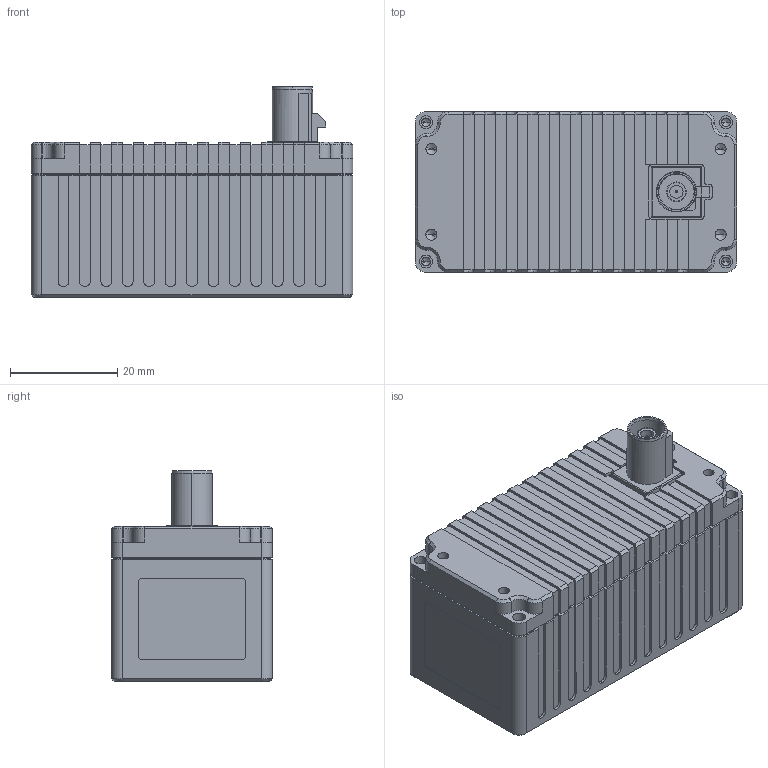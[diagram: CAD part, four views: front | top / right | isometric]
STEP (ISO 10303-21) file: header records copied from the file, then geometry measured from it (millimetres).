
FILE_DESCRIPTION (( 'STEP AP214' ), '1' );
FILE_NAME ('D35GC-蚾饜极.STEP', '2026-10-08T09:20:05', ( '' ), ( '' ), 'SwSTEP 2.0', 'SolidWorks 2025', '' );
FILE_SCHEMA (( 'AUTOMOTIVE_DESIGN' ));
Length unit declared in the file: millimetre
Products named in the file (10): D35GC-后壳; D35GC-光学模组; D35GC-壳体; D35GC-RX窗口片; D35GC-装配体; D35GC-TX窗口片; D35GC-前壳; D35GC_TR_EVT_V1-20260720; D35GC-RGB窗口片; D35GC-导光柱_V1.1
Assembly tree (9 placements, depth 3):
  D35GC-装配体
    D35GC-壳体
      D35GC-前壳
      D35GC-后壳
      D35GC-RGB窗口片
      D35GC-RX窗口片
      D35GC-TX窗口片
      D35GC-导光柱_V1.1
    D35GC-光学模组
      D35GC_TR_EVT_V1-20260720
Bounding box: 60 x 30 x 39.35 mm (x, y, z)
Volume: 15353.6 mm3; surface area: 24729.2 mm2
Topology: 9 solids, 202 shells, 12689 faces, 33928 edges, 22135 vertices
Faces by surface type: plane 7855, bspline 3512, cylinder 1180, cone 142
Entity records: 571813 total; most frequent: CARTESIAN_POINT 146446, ORIENTED_EDGE 67484, DIRECTION 47158, EDGE_CURVE 33755, LINE 23942, VECTOR 23942, VERTEX_POINT 22135, EDGE_LOOP 13497
